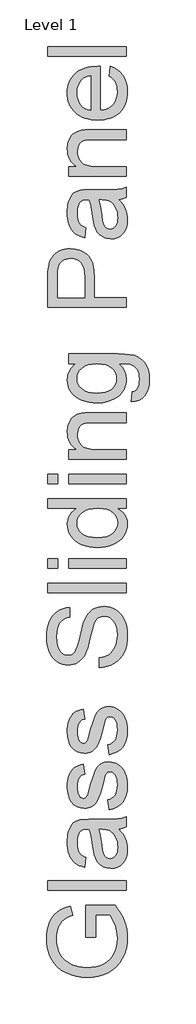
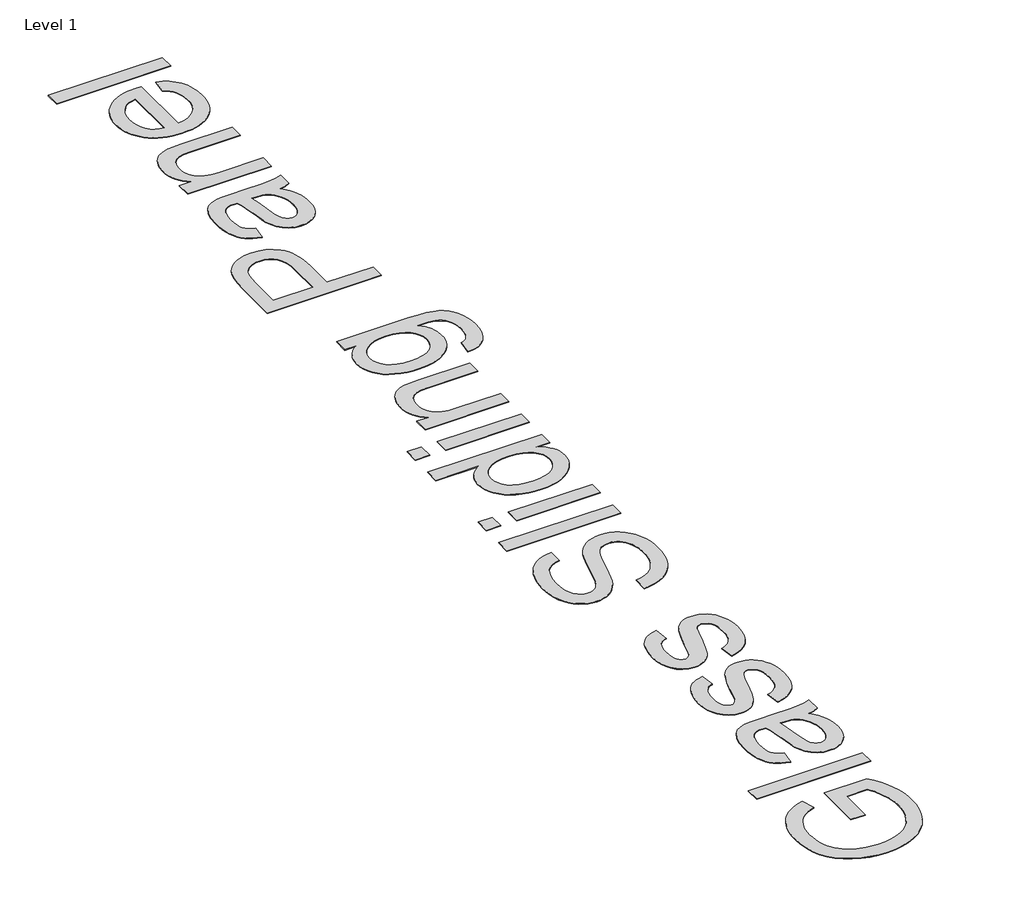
# One storey, part 6 of 47: 1 proxy.
"""IFC4 building model written with IfcOpenShell, lengths in millimetres."""

from ifc_helpers import new_model, si_unit, origin, origin_with_axes, place, context, project, spatial, polyline, outline, extrude, element, save

model = new_model("IFC4")

# Units and contexts
model_context = context("Model", 3, world=origin())
ifc_project = project(units=[si_unit("LENGTHUNIT", "METRE", prefix="MILLI")], contexts=[model_context])

# Site, building, storey
site = spatial("IfcSite", under=ifc_project)
building = spatial("IfcBuilding", under=site)
storey = spatial("IfcBuildingStorey", under=building, Name="Level 1", Elevation=0.0)

# Proxy
placement = place(None, origin())
element("IfcBuildingElementProxy", 1, Name="1000mm Arial", ObjectType="1000mm Arial", at=placement, inside=storey, context=model_context, shape_type="SweptSolid", body=[
    extrude(outline(polyline([(170520.2217511, -49141.2135673), (170394.6513634, -49141.2135673), (170394.6513634, -48733.1098073), (170770.1362532, -48733.1098073), (170807.0624084, -48782.3063599), (170839.1141273, -48832.2846618), (170866.2914097, -48883.044713), (170888.5942556, -48934.5865133), (170905.9766799, -48986.8487493), (170918.3926972, -49039.7701071), (170925.8423076, -49093.3505869), (170928.3255111, -49147.5901885), (170924.3784439, -49219.7180522), (170912.5372421, -49288.4583358), (170892.8019059, -49353.8110394), (170865.1724353, -49415.776163), (170830.0626974, -49472.3533482), (170787.8865594, -49521.5422366), (170738.6440216, -49563.3428283), (170682.3350837, -49597.7551233), (170620.7608347, -49624.6335016), (170555.7223637, -49643.8323432), (170487.2196705, -49655.3516482), (170415.2527552, -49659.1914165), (170343.2781757, -49655.3669766), (170273.7714712, -49643.8936569), (170206.7326418, -49624.7714573), (170142.1616874, -49598.000378), (170082.8943651, -49564.0555997), (170031.766432, -49523.4123034), (169988.777888, -49476.0704892), (169953.9287332, -49422.0301569), (169926.9967055, -49362.4639305), (169907.7595428, -49298.5444339), (169896.2172452, -49230.2716669), (169892.3698127, -49157.6456297), (169894.6000973, -49104.6246372), (169901.2909511, -49054.2094754), (169912.442374, -49006.4001445), (169928.0543662, -48961.1966443), (169947.6440825, -48919.6642999), (169970.7286777, -48882.8684362), (169997.3081518, -48850.8090531), (170027.3825049, -48823.4861508), (170061.6338515, -48800.0260094), (170100.7443061, -48779.5549092), (170144.7138688, -48762.0728502), (170193.5425394, -48747.5798324), (170226.1614096, -48863.3400336), (170159.9733073, -48889.1837437), (170132.9723017, -48904.1979277), (170110.0333265, -48920.6069975), (170090.1676988, -48939.5529203), (170072.3867357, -48962.177663), (170056.6904372, -48988.4812256), (170043.0788034, -49018.4636082), (170032.0806646, -49051.1514563), (170024.2248511, -49085.5714155), (170019.5113631, -49121.7234857), (170017.9402004, -49159.607667), (170019.6339904, -49204.5122631), (170024.7153605, -49246.2745337), (170033.1843105, -49284.894479), (170045.0408407, -49320.3720989), (170059.6488216, -49352.6384156), (170076.3721239, -49381.6244511), (170095.2107478, -49407.3302055), (170116.1646931, -49429.7556788), (170162.3645403, -49466.6971625), (170212.9176578, -49494.3802826), (170259.3627597, -49511.5481091), (170307.7085852, -49523.8108423), (170357.9551344, -49531.1684822), (170410.1024072, -49533.6210288), (170472.8032948, -49530.6703086), (170530.1852218, -49521.8181481), (170582.2481884, -49507.0645473), (170628.9921944, -49486.4095061), (170670.2409631, -49460.1212718), (170705.8182177, -49428.4680918), (170735.7239582, -49391.4499661), (170759.9581846, -49349.0668946), (170778.6818454, -49303.3039072), (170792.0558887, -49256.1460339), (170800.0803147, -49207.5932748), (170802.7551234, -49157.6456297), (170800.7394367, -49113.8906649), (170794.6923764, -49070.6721947), (170784.6139425, -49027.9902191), (170770.5041352, -48985.844738), (170737.1801578, -48912.1763684), (170719.7134272, -48882.9067572), (170701.7102021, -48858.680195), (170520.2217511, -48858.680195), (170520.2217511, -49141.2135673)])), origin_with_axes(), (0.0, 0.0, 1.0), 5.0),
    extrude(outline(polyline([(170912.6292126, -48544.7542258), (169908.0661111, -48544.7542258), (169908.0661111, -48419.1838381), (170912.6292126, -48419.1838381), (170912.6292126, -48544.7542258)])), origin_with_axes(), (0.0, 0.0, 1.0), 5.0),
    extrude(outline(polyline([(170818.4514219, -47759.9393027), (170846.3951251, -47789.7147517), (170869.8935875, -47819.9347248), (170888.9468092, -47850.5992219), (170903.5547901, -47881.7082431), (170914.3919805, -47913.614342), (170922.1328309, -47946.6700721), (170926.777341, -47980.8754335), (170928.3255111, -48016.230426), (170924.6007059, -48072.1408251), (170913.4262903, -48121.1687652), (170894.8022643, -48163.3142462), (170868.7286279, -48198.5772683), (170836.8608501, -48226.4213368), (170800.8543998, -48246.3099572), (170760.7092771, -48258.2431294), (170716.4254819, -48262.2208535), (170664.3701796, -48256.2121142), (170640.1359531, -48248.7011901), (170617.0973432, -48238.1858965), (170576.6303237, -48210.380149), (170544.9924721, -48175.0328206), (170521.0801424, -48133.492812), (170503.7896887, -48087.1090238), (170494.1634431, -48041.920852), (170484.9050796, -47978.4612079), (170465.0394518, -47850.0703915), (170453.819051, -47800.4982927), (170441.7402588, -47760.6750667), (170413.7812272, -47759.9393027), (170383.3389921, -47762.1006094), (170357.7405366, -47768.5845296), (170336.9858607, -47779.3910632), (170321.0749644, -47794.5202103), (170305.1947249, -47820.6704888), (170293.8516968, -47852.5229382), (170287.0458798, -47890.0775585), (170284.7772742, -47933.3343498), (170286.2871232, -47973.5561146), (170290.8166703, -48008.1370221), (170298.3659154, -48037.0770724), (170308.9348586, -48060.3762654), (170323.3512342, -48079.5214576), (170342.442777, -48095.9995053), (170366.2094867, -48109.8104086), (170394.6513634, -48120.9541673), (170378.955065, -48246.524555), (170342.7800021, -48236.9672873), (170310.2837592, -48224.7275468), (170281.4663363, -48209.8053334), (170256.3277332, -48192.2006471), (170234.3621125, -48171.1547312), (170215.0636361, -48145.9088293), (170198.4323043, -48116.4629413), (170184.4681169, -48082.8170672), (170173.4163286, -48045.6533214), (170165.5221941, -48005.6538187), (170160.7857134, -47962.8185589), (170159.2068865, -47917.147542), (170164.7864301, -47832.2587716), (170171.7608596, -47796.4132697), (170181.5250609, -47764.9670233), (170206.6943207, -47714.2299648), (170221.4172647, -47694.6785696), (170237.5657515, -47679.0052638), (170275.7335085, -47655.6447571), (170322.791747, -47640.5002816), (170366.2018225, -47635.9017567), (170432.6658363, -47634.368915), (170588.8930569, -47634.368915), (170724.9787383, -47632.7747597), (170807.04708, -47627.9922938), (170860.9724492, -47618.5499892), (170912.6292126, -47602.9763181), (170912.6292126, -47728.5467058), (170868.9738825, -47748.6575882), (170818.4514219, -47759.9393027)]), holes=[polyline([(170567.3106465, -47759.9393027), (170588.2186066, -47844.3069069), (170605.8156287, -47962.5196547), (170615.4418742, -48027.6654247), (170626.1717657, -48070.554334), (170640.0899679, -48098.6666498), (170659.2811453, -48119.4826393), (170682.27377, -48132.3585092), (170707.596314, -48136.6504658), (170727.1093882, -48134.3128823), (170744.9363365, -48127.3001317), (170761.077159, -48115.6122142), (170775.5318558, -48099.2491296), (170787.4420354, -48078.3641622), (170795.9493065, -48053.110596), (170801.0536692, -48023.4884312), (170802.7551234, -47989.4976677), (170800.8773924, -47954.7941328), (170795.2441993, -47922.0526353), (170785.8555443, -47891.273175), (170772.7114271, -47862.455752), (170756.9001656, -47836.4587577), (170739.5100771, -47814.1405833), (170720.5411617, -47795.5012289), (170699.9934194, -47780.5406945), (170681.5993197, -47771.8494823), (170659.2811453, -47765.6414736), (170602.8725727, -47760.6750667), (170567.3106465, -47759.9393027)])]), origin_with_axes(), (0.0, 0.0, 1.0), 5.0),
    extrude(outline(polyline([(170692.8810342, -47508.7985273), (170677.1847357, -47383.2281397), (170705.8182177, -47375.6405735), (170730.895507, -47363.4238256), (170752.4166037, -47346.5778959), (170770.3815078, -47325.1027844), (170784.5449647, -47298.9371775), (170794.6617195, -47268.0197615), (170800.7317724, -47232.3505364), (170802.7551234, -47191.9295022), (170800.900385, -47151.5544532), (170795.3361698, -47116.7589478), (170786.0624779, -47087.542986), (170773.0793091, -47063.9065678), (170757.5976085, -47045.6657523), (170740.8283209, -47032.6365983), (170722.7714463, -47024.8191059), (170703.4269847, -47022.2132751), (170686.4737561, -47024.8344343), (170671.4212511, -47032.6979119), (170658.2694698, -47045.803708), (170647.0184121, -47064.1518225), (170631.076859, -47111.1794042), (170611.2112313, -47193.4010301), (170578.0711949, -47307.9962716), (170549.7749381, -47382.4923757), (170535.5884886, -47408.0678385), (170518.9035073, -47430.3476919), (170499.7199941, -47449.3319357), (170478.037949, -47465.0205699), (170454.5088297, -47477.3062957), (170429.784094, -47486.0818141), (170403.8637417, -47491.3471252), (170376.747773, -47493.1022289), (170328.0953791, -47487.4613716), (170283.1831189, -47470.5387998), (170243.7890886, -47443.8673552), (170211.6913845, -47408.9798793), (170191.4885316, -47374.3070013), (170174.535303, -47329.1494864), (170163.0389906, -47276.9408999), (170159.2068865, -47221.1148071), (170160.7473924, -47178.9156766), (170165.3689099, -47139.3836905), (170173.0714392, -47102.5188489), (170183.8549802, -47068.3211518), (170197.2673446, -47037.6030052), (170212.8563442, -47011.1768152), (170230.6219788, -46989.0425818), (170250.5642487, -46971.2003051), (170273.3805966, -46956.7302799), (170299.7684655, -46944.7128014), (170329.7278555, -46935.1478695), (170363.2587665, -46928.0354843), (170378.955065, -47053.605872), (170357.978127, -47059.5916186), (170339.4384073, -47069.4554546), (170323.3359058, -47083.19738), (170309.6706225, -47100.8173947), (170298.7797827, -47122.3921409), (170291.0006113, -47147.9982606), (170286.3331085, -47177.6357538), (170284.7772742, -47211.3046206), (170286.2641306, -47250.3614257), (170290.7246998, -47283.4094916), (170298.1589818, -47310.4488183), (170308.5669766, -47331.4794057), (170320.9523371, -47347.2523462), (170334.3187162, -47358.5187323), (170348.666114, -47365.278564), (170363.9945305, -47367.5318412), (170383.3083353, -47363.7917076), (170400.5374754, -47352.5713067), (170415.9272055, -47333.3801293), (170428.2512523, -47305.727666), (170454.9840106, -47197.5703594), (170487.7868219, -47086.623281), (170514.0903845, -47013.2614798), (170526.9202691, -46987.4484265), (170542.3559845, -46964.5784291), (170560.3975307, -46944.6514877), (170581.0449077, -46927.6676023), (170604.3287723, -46914.0942895), (170630.2797813, -46904.3990661), (170658.8979349, -46898.5819321), (170690.1832329, -46896.6428874), (170721.6064866, -46898.9191572), (170752.1100354, -46905.7479668), (170781.6938792, -46917.129316), (170810.358018, -46933.0632049), (170836.9604848, -46953.2890504), (170860.3593125, -46977.5462695), (170880.5545012, -47005.8348621), (170897.5460508, -47038.1548282), (170911.0120647, -47073.6247839), (170920.630646, -47111.3633452), (170926.4017948, -47151.3705122), (170928.3255111, -47193.6462848), (170924.6160343, -47261.229273), (170913.487604, -47320.2590048), (170894.94022, -47370.7354802), (170868.9738825, -47412.6586993), (170835.7112188, -47446.9023817), (170795.2748562, -47474.3402471), (170747.6647946, -47494.9722957), (170692.8810342, -47508.7985273)])), origin_with_axes(), (0.0, 0.0, 1.0), 5.0),
    extrude(outline(polyline([(170692.8810342, -46802.4650966), (170677.1847357, -46676.8947089), (170705.8182177, -46669.3071428), (170730.895507, -46657.0903948), (170752.4166037, -46640.2444652), (170770.3815078, -46618.7693537), (170784.5449647, -46592.6037468), (170794.6617195, -46561.6863308), (170800.7317724, -46526.0171056), (170802.7551234, -46485.5960714), (170800.900385, -46445.2210225), (170795.3361698, -46410.4255171), (170786.0624779, -46381.2095553), (170773.0793091, -46357.5731371), (170757.5976085, -46339.3323215), (170740.8283209, -46326.3031675), (170722.7714463, -46318.4856751), (170703.4269847, -46315.8798443), (170686.4737561, -46318.5010035), (170671.4212511, -46326.3644812), (170658.2694698, -46339.4702773), (170647.0184121, -46357.8183918), (170631.076859, -46404.8459735), (170611.2112313, -46487.0675994), (170578.0711949, -46601.6628409), (170549.7749381, -46676.1589449), (170535.5884886, -46701.7344078), (170518.9035073, -46724.0142611), (170499.7199941, -46742.9985049), (170478.037949, -46758.6871392), (170454.5088297, -46770.972865), (170429.784094, -46779.7483834), (170403.8637417, -46785.0136945), (170376.747773, -46786.7687981), (170328.0953791, -46781.1279409), (170283.1831189, -46764.2053691), (170243.7890886, -46737.5339245), (170211.6913845, -46702.6464486), (170191.4885316, -46667.9735705), (170174.535303, -46622.8160556), (170163.0389906, -46570.6074691), (170159.2068865, -46514.7813764), (170160.7473924, -46472.5822458), (170165.3689099, -46433.0502598), (170173.0714392, -46396.1854182), (170183.8549802, -46361.987721), (170197.2673446, -46331.2695745), (170212.8563442, -46304.8433845), (170230.6219788, -46282.7091511), (170250.5642487, -46264.8668743), (170273.3805966, -46250.3968492), (170299.7684655, -46238.3793707), (170329.7278555, -46228.8144388), (170363.2587665, -46221.7020536), (170378.955065, -46347.2724412), (170357.978127, -46353.2581879), (170339.4384073, -46363.1220239), (170323.3359058, -46376.8639492), (170309.6706225, -46394.483964), (170298.7797827, -46416.0587101), (170291.0006113, -46441.6648298), (170286.3331085, -46471.3023231), (170284.7772742, -46504.9711898), (170286.2641306, -46544.027995), (170290.7246998, -46577.0760609), (170298.1589818, -46604.1153875), (170308.5669766, -46625.1459749), (170320.9523371, -46640.9189155), (170334.3187162, -46652.1853016), (170348.666114, -46658.9451332), (170363.9945305, -46661.1984105), (170383.3083353, -46657.4582768), (170400.5374754, -46646.237876), (170415.9272055, -46627.0466986), (170428.2512523, -46599.3942353), (170454.9840106, -46491.2369287), (170487.7868219, -46380.2898503), (170514.0903845, -46306.9280491), (170526.9202691, -46281.1149958), (170542.3559845, -46258.2449984), (170560.3975307, -46238.318057), (170581.0449077, -46221.3341716), (170604.3287723, -46207.7608588), (170630.2797813, -46198.0656354), (170658.8979349, -46192.2485013), (170690.1832329, -46190.3094566), (170721.6064866, -46192.5857265), (170752.1100354, -46199.414536), (170781.6938792, -46210.7958852), (170810.358018, -46226.7297742), (170836.9604848, -46246.9556197), (170860.3593125, -46271.2128387), (170880.5545012, -46299.5014313), (170897.5460508, -46331.8213974), (170911.0120647, -46367.2913531), (170920.630646, -46405.0299145), (170926.4017948, -46445.0370815), (170928.3255111, -46487.3128541), (170924.6160343, -46554.8958423), (170913.487604, -46613.9255741), (170894.94022, -46664.4020495), (170868.9738825, -46706.3252685), (170835.7112188, -46740.5689509), (170795.2748562, -46768.0068164), (170747.6647946, -46788.638865), (170692.8810342, -46802.4650966)])), origin_with_axes(), (0.0, 0.0, 1.0), 5.0),
    extrude(outline(polyline([(170567.3106465, -45688.0279059), (170567.3106465, -45562.4575182), (170603.8612556, -45556.709362), (170636.9936278, -45548.0488067), (170666.7077631, -45536.4758523), (170693.0036615, -45521.9904987), (170716.4101535, -45503.8569821), (170737.4560693, -45481.3395383), (170756.1414089, -45454.4381674), (170772.4661725, -45423.1528694), (170785.7175885, -45388.6332755), (170795.1828857, -45352.029017), (170800.862064, -45313.3400938), (170802.7551234, -45272.566506), (170797.0222957, -45202.6076133), (170789.856261, -45170.8931196), (170779.8238124, -45141.3552611), (170767.2851677, -45114.7221374), (170752.6005447, -45091.7218485), (170735.7699435, -45072.3543943), (170716.7933639, -45056.6197748), (170696.4908763, -45044.4413479), (170675.6825509, -45035.7424716), (170654.3683878, -45030.5231458), (170632.548387, -45028.7833705), (170590.517869, -45033.9950321), (170554.189522, -45049.6300169), (170538.0716921, -45062.7817983), (170523.1954639, -45081.3904958), (170509.5608375, -45105.4561097), (170497.1678128, -45134.9786398), (170477.4554692, -45201.2893694), (170449.2205261, -45317.8159914), (170417.490704, -45437.8374923), (170402.2006085, -45481.6384424), (170387.2937235, -45514.6328588), (170367.29014, -45548.1637698), (170345.0486078, -45577.1421412), (170320.5691267, -45601.5679728), (170293.8516968, -45621.4412648), (170265.1722295, -45636.8386591), (170234.8066365, -45647.8367979), (170202.7549177, -45654.4356812), (170169.0170731, -45656.635309), (170131.6234011, -45653.914515), (170095.4713309, -45645.7521333), (170060.5608624, -45632.1481637), (170026.8919956, -45613.1026062), (169995.8366238, -45588.8300587), (169968.7666404, -45559.5451191), (169945.6820452, -45525.2477872), (169926.5828382, -45485.9380632), (169911.6146396, -45442.941855), (169900.9230691, -45397.5850707), (169894.5081268, -45349.8677102), (169892.3698127, -45299.7897736), (169894.6077615, -45245.1592974), (169901.3216079, -45193.839759), (169912.5113519, -45145.8311587), (169928.1769936, -45101.1334962), (169948.180577, -45060.5745063), (169972.3841466, -45024.9819232), (170000.7877023, -44994.3557471), (170033.3912442, -44968.695978), (170069.2444103, -44948.2018852), (170107.3968389, -44933.0727381), (170147.8485299, -44923.3085368), (170190.5994834, -44918.9092813), (170190.5994834, -45044.479669), (170150.5310028, -45052.8796412), (170115.6741838, -45067.5336074), (170086.0290263, -45088.4415674), (170061.5955305, -45115.6035214), (170042.4963236, -45149.525307), (170028.8540329, -45190.7127621), (170020.6686585, -45239.1658865), (170017.9402004, -45294.8846804), (170020.6380017, -45352.3815705), (170028.7314056, -45401.5091453), (170042.2204121, -45442.2674047), (170061.1050211, -45474.6563487), (170083.8064059, -45499.3350992), (170108.7457395, -45516.9627781), (170135.9230219, -45527.5393855), (170165.3382531, -45531.0649213), (170190.6454687, -45528.5663894), (170213.5921081, -45521.0707937), (170234.1781715, -45508.5781343), (170252.4036586, -45491.0884111), (170269.6634556, -45463.5585752), (170287.1071935, -45420.2098134), (170304.7348724, -45361.0421258), (170322.5464924, -45286.0555125), (170356.2076949, -45147.609255), (170371.4288125, -45098.8955474), (170385.5769409, -45063.8547874), (170407.0213955, -45025.3574694), (170431.1329946, -44992.2710825), (170457.9117382, -44964.5956266), (170487.3576262, -44942.3311017), (170519.3173746, -44925.2169247), (170553.637699, -44912.9925125), (170590.3185996, -44905.6578653), (170629.3600764, -44903.2129828), (170668.6391436, -44906.0257473), (170706.7685795, -44914.4640405), (170743.7483842, -44928.5278626), (170779.5785577, -44948.2172136), (170812.8718783, -44973.187204), (170842.2411242, -45003.0929445), (170867.6862956, -45037.9344352), (170889.2073923, -45077.7116759), (170906.3215693, -45121.2673713), (170918.5459814, -45167.4442259), (170925.8806287, -45216.2422397), (170928.3255111, -45267.6614127), (170925.6890235, -45331.8951419), (170917.7795606, -45390.6872833), (170904.5971224, -45444.0378368), (170886.141709, -45491.9468025), (170862.3826635, -45534.7054202), (170833.289329, -45572.6049299), (170798.8617056, -45605.6453316), (170759.0997933, -45633.8266253), (170715.2911791, -45656.52801), (170668.7234498, -45673.1286851), (170619.3966057, -45683.6286504), (170567.3106465, -45688.0279059)])), origin_with_axes(), (0.0, 0.0, 1.0), 5.0),
    extrude(outline(polyline([(170912.6292126, -44730.5536998), (169908.0661111, -44730.5536998), (169908.0661111, -44604.9833121), (170912.6292126, -44604.9833121), (170912.6292126, -44730.5536998)])), origin_with_axes(), (0.0, 0.0, 1.0), 5.0),
    extrude(outline(polyline([(170033.6364988, -44416.6277306), (169908.0661111, -44416.6277306), (169908.0661111, -44291.0573429), (170033.6364988, -44291.0573429), (170033.6364988, -44416.6277306)])), origin_with_axes(), (0.0, 0.0, 1.0), 5.0),
    extrude(outline(polyline([(170912.6292126, -44416.6277306), (170174.903185, -44416.6277306), (170174.903185, -44291.0573429), (170912.6292126, -44291.0573429), (170912.6292126, -44416.6277306)])), origin_with_axes(), (0.0, 0.0, 1.0), 5.0),
    extrude(outline(polyline([(170912.6292126, -43647.509106), (170794.1712102, -43647.509106), (170825.6136245, -43665.3015654), (170852.8637168, -43685.0790547), (170875.9214873, -43706.841574), (170894.7869359, -43730.5891232), (170909.4600625, -43756.3217024), (170919.9408673, -43784.0393114), (170926.2293502, -43813.7419504), (170928.3255111, -43845.4296194), (170925.2904846, -43886.8776575), (170916.1854053, -43926.608913), (170901.010273, -43964.6233858), (170879.7650877, -44000.921076), (170853.0859789, -44034.3676807), (170821.6090757, -44063.8288972), (170785.3343781, -44089.3047253), (170744.2618862, -44110.7951652), (170699.1733492, -44127.8556928), (170650.8505162, -44140.0417838), (170599.2933875, -44147.3534385), (170544.5019628, -44149.7906567), (170490.7145494, -44147.5450437), (170439.4716532, -44140.8082047), (170390.7732741, -44129.5801396), (170344.6194121, -44113.8608485), (170302.3589679, -44093.6579956), (170265.3408421, -44068.9792451), (170233.5650348, -44039.824597), (170207.0315459, -44006.1940513), (170186.1082574, -43969.2755602), (170171.1630514, -43930.2570761), (170162.1959277, -43889.1385989), (170159.2068865, -43845.9201287), (170161.3452006, -43814.312934), (170167.7601429, -43784.4838355), (170178.4517134, -43756.4328334), (170193.4199121, -43730.1599276), (170211.8063476, -43705.956358), (170232.7526287, -43684.1133645), (170256.2587554, -43664.6309472), (170282.3247276, -43647.509106), (169908.0661111, -43647.509106), (169908.0661111, -43521.9387183), (170912.6292126, -43521.9387183), (170912.6292126, -43647.509106)]), holes=[polyline([(170544.0114535, -44024.220269), (170604.9035879, -44020.6794048), (170657.5950195, -44010.0568122), (170702.0857483, -43992.3524912), (170738.3757743, -43967.5664418), (170766.5417395, -43937.9672696), (170786.6602861, -43905.8235803), (170798.7314141, -43871.1353738), (170802.7551234, -43833.9026502), (170798.9153551, -43796.4936498), (170787.3960501, -43762.012377), (170768.1972085, -43730.4588317), (170741.3188302, -43701.8330139), (170706.5463175, -43678.0663042), (170663.6650724, -43661.090083), (170612.675095, -43650.9043502), (170553.5763854, -43647.509106), (170488.783169, -43650.9656639), (170433.2176593, -43661.3353376), (170386.8798563, -43678.6181272), (170349.76976, -43702.8140326), (170321.3355475, -43732.0683154), (170301.0253957, -43764.5262373), (170288.8393046, -43800.1877982), (170284.7772742, -43839.0529981), (170288.6783562, -43877.0214857), (170300.3816022, -43911.7096922), (170319.8870121, -43943.1176175), (170347.1945861, -43971.2452617), (170382.9021322, -43994.4218274), (170427.6074588, -44010.9765172), (170481.3105659, -44020.9093311), (170544.0114535, -44024.220269)])]), origin_with_axes(), (0.0, 0.0, 1.0), 5.0),
    extrude(outline(polyline([(170033.6364988, -43333.5831368), (169908.0661111, -43333.5831368), (169908.0661111, -43208.0127491), (170033.6364988, -43208.0127491), (170033.6364988, -43333.5831368)])), origin_with_axes(), (0.0, 0.0, 1.0), 5.0),
    extrude(outline(polyline([(170912.6292126, -43333.5831368), (170174.903185, -43333.5831368), (170174.903185, -43208.0127491), (170912.6292126, -43208.0127491), (170912.6292126, -43333.5831368)])), origin_with_axes(), (0.0, 0.0, 1.0), 5.0),
    extrude(outline(polyline([(170912.6292126, -43019.6571675), (170174.903185, -43019.6571675), (170174.903185, -42894.0867799), (170277.9101436, -42894.0867799), (170250.0890677, -42873.370425), (170225.9774686, -42850.4621066), (170205.5753463, -42825.3618246), (170188.8827008, -42798.0695791), (170175.8995321, -42768.58537), (170166.6258401, -42736.9091974), (170161.0616249, -42703.0410612), (170159.2068865, -42666.9809615), (170165.1849689, -42605.0848158), (170172.657572, -42576.0911161), (170183.1192162, -42548.4003317), (170196.0104145, -42523.0624593), (170210.7716795, -42501.1274953), (170227.4030114, -42482.5954398), (170245.9044101, -42467.4662928), (170288.4254373, -42444.6269522), (170338.2427908, -42429.8197019), (170385.8835092, -42424.853295), (170459.6438492, -42423.197826), (170912.6292126, -42423.197826), (170912.6292126, -42548.7682137), (170476.566421, -42548.7682137), (170411.6352489, -42552.38572), (170365.4660585, -42563.2382389), (170347.9993279, -42571.8604731), (170332.3873358, -42583.2571508), (170318.630082, -42597.4282718), (170306.7275666, -42614.3738362), (170290.2648473, -42654.2583758), (170284.7772742, -42700.5808504), (170287.8582859, -42738.7102863), (170297.101321, -42774.1265926), (170312.5063796, -42806.8297691), (170334.0734616, -42836.8198159), (170364.2551136, -42861.8741126), (170405.5038823, -42879.7700389), (170457.8197677, -42890.5075946), (170521.2027698, -42894.0867799), (170912.6292126, -42894.0867799), (170912.6292126, -43019.6571675)])), origin_with_axes(), (0.0, 0.0, 1.0), 5.0),
    extrude(outline(polyline([(170975.4144065, -42281.9311399), (170991.1107049, -42156.3607522), (171012.2639197, -42151.0571201), (171030.3514511, -42142.5038637), (171045.3732992, -42130.700983), (171057.3294641, -42115.6484781), (171069.5615404, -42091.2916243), (171078.2987378, -42062.8574117), (171083.5410562, -42030.3458404), (171085.2884957, -41993.7569103), (171083.31113, -41954.546821), (171077.3790328, -41920.057884), (171067.4922042, -41890.2900992), (171053.6506441, -41865.2434667), (171036.237563, -41844.3968203), (171015.6361713, -41827.2289938), (170991.8464689, -41813.7399873), (170964.868456, -41803.9298008), (170910.8511163, -41797.1239839), (170818.4514219, -41795.3458876), (170859.6542053, -41837.1311509), (170889.084765, -41883.7601938), (170899.3854608, -41908.8911326), (170906.7431007, -41935.2330163), (170912.6292126, -41991.5496183), (170910.9162621, -42027.0023296), (170905.7774105, -42060.3972009), (170897.2126578, -42091.7342323), (170885.222004, -42121.0134238), (170869.8054491, -42148.2347754), (170850.9629932, -42173.3982871), (170828.6946362, -42196.5039589), (170803.0003781, -42217.5517907), (170745.4575027, -42252.5848866), (170682.457711, -42277.6085264), (170614.0010031, -42292.6227104), (170540.0873789, -42297.6274383), (170488.3769659, -42295.3818253), (170438.7052324, -42288.6449863), (170391.0721782, -42277.4169212), (170345.4778034, -42261.6976301), (170303.4396213, -42241.7247035), (170266.4751449, -42217.7357317), (170234.5843745, -42189.7307148), (170207.7673099, -42157.7096528), (170186.5221247, -42122.1860477), (170171.3469924, -42083.6734013), (170162.241913, -42042.1717137), (170159.2068865, -41997.6809849), (170160.9236692, -41967.6411208), (170166.0740171, -41938.9578215), (170174.6579303, -41911.631087), (170186.6754088, -41885.6609174), (170202.1264526, -41861.0473127), (170221.0110617, -41837.7902728), (170243.3292361, -41815.8897978), (170269.0809757, -41795.3458876), (170174.903185, -41795.3458876), (170174.903185, -41669.7754999), (170811.829546, -41669.7754999), (170891.6369463, -41671.9214782), (170958.8903735, -41678.3594131), (171013.5898277, -41689.0893046), (171055.7353088, -41704.1111528), (171089.7260723, -41723.7851753), (171119.9613738, -41748.47159), (171146.4412132, -41778.1703969), (171169.1655906, -41812.881596), (171187.4064062, -41852.2526337), (171200.4355602, -41895.9309564), (171208.2530526, -41943.9165642), (171210.8588834, -41996.209457), (171207.1877277, -42057.7300564), (171196.1742604, -42113.0426473), (171177.8184817, -42162.1472294), (171152.1203915, -42205.0438029), (171119.049333, -42239.6936883), (171078.5746493, -42264.0582063), (171030.6963405, -42278.1373568), (170975.4144065, -42281.9311399)]), holes=[polyline([(170531.5034656, -42172.0570506), (170593.5912165, -42168.7077917), (170646.681187, -42158.6600147), (170690.7733769, -42141.9137197), (170725.8677864, -42118.4689067), (170752.6388658, -42089.9657163), (170771.7610653, -42058.044289), (170783.234385, -42022.7046248), (170787.058825, -41983.9467238), (170783.2573777, -41945.5720332), (170771.8530358, -41910.4009816), (170752.8457994, -41878.433569), (170726.2356684, -41849.6697955), (170691.4861483, -41825.9030858), (170648.0607444, -41808.9268646), (170595.9594569, -41798.7411318), (170535.1822856, -41795.3458876), (170476.9419672, -41798.8407665), (170426.3198719, -41809.3254034), (170383.3159995, -41826.7997982), (170347.93035, -41851.2639509), (170320.3008794, -41880.6485252), (170300.5655432, -41912.884185), (170288.7243414, -41947.9709303), (170284.7772742, -41985.9087611), (170288.6630278, -42023.2104626), (170300.3202885, -42057.6150933), (170319.7490564, -42089.1226534), (170346.9493314, -42117.7331427), (170381.7984862, -42141.4998524), (170424.1738935, -42158.4760737), (170474.0755534, -42168.6618064), (170531.5034656, -42172.0570506)])]), origin_with_axes(), (0.0, 0.0, 1.0), 5.0),
    extrude(outline(polyline([(170912.6292126, -41073.3161584), (169908.0661111, -41073.3161584), (169908.0661111, -40701.0195793), (169910.4573441, -40614.3220557), (169917.631043, -40550.9237252), (169925.1649597, -40515.9825999), (169935.5039766, -40483.9998589), (169948.6480937, -40454.9755024), (169964.5973111, -40428.9095302), (169983.6811896, -40405.5260309), (170006.2292902, -40384.5490929), (170032.2416129, -40365.9787164), (170061.7181578, -40349.8149012), (170093.6855703, -40336.7244335), (170127.1704961, -40327.3740995), (170162.1729351, -40321.7638991), (170198.6928873, -40319.8938323), (170260.3591068, -40324.9445455), (170317.0895761, -40340.0966852), (170368.8842954, -40365.3502513), (170415.7432645, -40400.7052439), (170436.5515898, -40422.941028), (170454.5854718, -40449.2426746), (170469.8449104, -40479.6101837), (170482.3299056, -40514.0435552), (170492.0404575, -40552.5427892), (170498.9765659, -40595.1078857), (170504.5254527, -40692.435666), (170504.5254527, -40947.7457707), (170912.6292126, -40947.7457707), (170912.6292126, -41073.3161584)]), holes=[polyline([(170378.955065, -40947.7457707), (170378.955065, -40685.0780261), (170376.0733227, -40624.6840653), (170367.4280958, -40573.7324089), (170353.0193843, -40532.2230571), (170332.8471882, -40500.1560099), (170307.4480022, -40476.2283518), (170277.3583206, -40459.1371674), (170242.5781437, -40448.8824568), (170203.1074713, -40445.46422), (170173.799539, -40447.4799067), (170146.6988987, -40453.526967), (170121.8055503, -40463.6054008), (170099.119494, -40477.7152082), (170079.3764936, -40495.1052967), (170063.3123131, -40515.0245739), (170050.9269526, -40537.4730398), (170042.2204121, -40562.4506944), (170035.7824771, -40610.8884905), (170033.6364988, -40688.0210821), (170033.6364988, -40947.7457707), (170378.955065, -40947.7457707)])]), origin_with_axes(), (0.0, 0.0, 1.0), 5.0),
    extrude(outline(polyline([(170818.4514219, -39692.0418938), (170846.3951251, -39721.8173428), (170869.8935875, -39752.0373159), (170888.9468092, -39782.701813), (170903.5547901, -39813.8108342), (170914.3919805, -39845.7169331), (170922.1328309, -39878.7726632), (170926.777341, -39912.9780246), (170928.3255111, -39948.3330171), (170924.6007059, -40004.2434162), (170913.4262903, -40053.2713563), (170894.8022643, -40095.4168373), (170868.7286279, -40130.6798594), (170836.8608501, -40158.5239279), (170800.8543998, -40178.4125483), (170760.7092771, -40190.3457205), (170716.4254819, -40194.3234446), (170664.3701796, -40188.3147053), (170640.1359531, -40180.8037813), (170617.0973432, -40170.2884876), (170576.6303237, -40142.4827401), (170544.9924721, -40107.1354117), (170521.0801424, -40065.5954031), (170503.7896887, -40019.2116149), (170494.1634431, -39974.0234431), (170484.9050796, -39910.563799), (170465.0394518, -39782.1729826), (170453.819051, -39732.6008838), (170441.7402588, -39692.7776578), (170413.7812272, -39692.0418938), (170383.3389921, -39694.2032006), (170357.7405366, -39700.6871207), (170336.9858607, -39711.4936543), (170321.0749644, -39726.6228014), (170305.1947249, -39752.7730799), (170293.8516968, -39784.6255293), (170287.0458798, -39822.1801496), (170284.7772742, -39865.4369409), (170286.2871232, -39905.6587057), (170290.8166703, -39940.2396132), (170298.3659154, -39969.1796635), (170308.9348586, -39992.4788566), (170323.3512342, -40011.6240487), (170342.442777, -40028.1020964), (170366.2094867, -40041.9129997), (170394.6513634, -40053.0567584), (170378.955065, -40178.6271461), (170342.7800021, -40169.0698785), (170310.2837592, -40156.8301379), (170281.4663363, -40141.9079245), (170256.3277332, -40124.3032382), (170234.3621125, -40103.2573224), (170215.0636361, -40078.0114204), (170198.4323043, -40048.5655324), (170184.4681169, -40014.9196583), (170173.4163286, -39977.7559125), (170165.5221941, -39937.7564098), (170160.7857134, -39894.92115), (170159.2068865, -39849.2501331), (170164.7864301, -39764.3613627), (170171.7608596, -39728.5158608), (170181.5250609, -39697.0696144), (170206.6943207, -39646.3325559), (170221.4172647, -39626.7811607), (170237.5657515, -39611.1078549), (170275.7335085, -39587.7473482), (170322.791747, -39572.6028727), (170366.2018225, -39568.0043478), (170432.6658363, -39566.4715061), (170588.8930569, -39566.4715061), (170724.9787383, -39564.8773508), (170807.04708, -39560.0948849), (170860.9724492, -39550.6525804), (170912.6292126, -39535.0789092), (170912.6292126, -39660.6492969), (170868.9738825, -39680.7601793), (170818.4514219, -39692.0418938)]), holes=[polyline([(170567.3106465, -39692.0418938), (170588.2186066, -39776.4094981), (170605.8156287, -39894.6222458), (170615.4418742, -39959.7680158), (170626.1717657, -40002.6569251), (170640.0899679, -40030.7692409), (170659.2811453, -40051.5852305), (170682.27377, -40064.4611003), (170707.596314, -40068.7530569), (170727.1093882, -40066.4154734), (170744.9363365, -40059.4027228), (170761.077159, -40047.7148053), (170775.5318558, -40031.3517207), (170787.4420354, -40010.4667533), (170795.9493065, -39985.2131872), (170801.0536692, -39955.5910223), (170802.7551234, -39921.6002588), (170800.8773924, -39886.8967239), (170795.2441993, -39854.1552264), (170785.8555443, -39823.3757661), (170772.7114271, -39794.5583432), (170756.9001656, -39768.5613488), (170739.5100771, -39746.2431745), (170720.5411617, -39727.60382), (170699.9934194, -39712.6432856), (170681.5993197, -39703.9520734), (170659.2811453, -39697.7440648), (170602.8725727, -39692.7776578), (170567.3106465, -39692.0418938)])]), origin_with_axes(), (0.0, 0.0, 1.0), 5.0),
    extrude(outline(polyline([(170912.6292126, -39393.8122231), (170174.903185, -39393.8122231), (170174.903185, -39268.2418354), (170277.9101436, -39268.2418354), (170250.0890677, -39247.5254805), (170225.9774686, -39224.6171621), (170205.5753463, -39199.5168802), (170188.8827008, -39172.2246346), (170175.8995321, -39142.7404256), (170166.6258401, -39111.0642529), (170161.0616249, -39077.1961168), (170159.2068865, -39041.136017), (170165.1849689, -38979.2398713), (170172.657572, -38950.2461716), (170183.1192162, -38922.5553873), (170196.0104145, -38897.2175148), (170210.7716795, -38875.2825509), (170227.4030114, -38856.7504954), (170245.9044101, -38841.6213483), (170288.4254373, -38818.7820078), (170338.2427908, -38803.9747575), (170385.8835092, -38799.0083505), (170459.6438492, -38797.3528816), (170912.6292126, -38797.3528816), (170912.6292126, -38922.9232692), (170476.566421, -38922.9232692), (170411.6352489, -38926.5407755), (170365.4660585, -38937.3932944), (170347.9993279, -38946.0155287), (170332.3873358, -38957.4122063), (170318.630082, -38971.5833273), (170306.7275666, -38988.5288917), (170290.2648473, -39028.4134314), (170284.7772742, -39074.7359059), (170287.8582859, -39112.8653419), (170297.101321, -39148.2816481), (170312.5063796, -39180.9848247), (170334.0734616, -39210.9748715), (170364.2551136, -39236.0291682), (170405.5038823, -39253.9250944), (170457.8197677, -39264.6626501), (170521.2027698, -39268.2418354), (170912.6292126, -39268.2418354), (170912.6292126, -39393.8122231)])), origin_with_axes(), (0.0, 0.0, 1.0), 5.0),
    extrude(outline(polyline([(170692.8810342, -38108.1872773), (170708.5773327, -37985.0694362), (170757.8888484, -38003.9463811), (170801.3449091, -38029.4298735), (170838.9455147, -38061.5199133), (170870.6906652, -38100.2165007), (170895.9059103, -38145.1210967), (170913.9167996, -38195.8351626), (170924.7233332, -38252.3586983), (170928.3255111, -38314.6917039), (170926.7715929, -38354.7103672), (170922.1098382, -38392.6060448), (170914.3402471, -38428.3787367), (170903.4628196, -38462.028443), (170889.4775556, -38493.5551635), (170872.3844552, -38522.9588984), (170852.1835184, -38550.2396476), (170828.8747451, -38575.3974111), (170802.7608716, -38597.9876649), (170774.1446341, -38617.5658848), (170743.0260326, -38634.1320709), (170709.4050671, -38647.6862232), (170673.2817377, -38658.2283416), (170634.6560442, -38665.7584262), (170593.5279868, -38670.276477), (170549.8975654, -38671.7824939), (170504.7822036, -38670.2611485), (170462.2650085, -38665.6971125), (170422.3459799, -38658.0903859), (170385.0251179, -38647.4409685), (170350.3024225, -38633.7488605), (170318.1778937, -38617.0140618), (170288.6515315, -38597.2365725), (170261.7233358, -38574.4163925), (170237.696043, -38549.1704906), (170216.8723893, -38522.1158355), (170199.2523745, -38493.2524273), (170184.8359989, -38462.580266), (170173.6232622, -38430.0993515), (170165.6141646, -38395.8096838), (170160.808706, -38359.711263), (170159.2068865, -38321.8040891), (170160.8048739, -38285.1366009), (170165.5988362, -38250.1820632), (170173.5887733, -38216.940476), (170184.7746852, -38185.4118394), (170199.1565719, -38155.5961533), (170216.7344335, -38127.4934178), (170237.5082699, -38101.1036328), (170261.4780812, -38076.4267983), (170288.3449631, -38054.0952116), (170317.8100117, -38034.7411698), (170349.8732268, -38018.3646728), (170384.5346086, -38004.9657208), (170421.7941569, -37994.5443136), (170461.6518718, -37987.1004514), (170549.1618014, -37981.1453616), (170583.006945, -37981.8811256), (170583.006945, -38546.2121062), (170633.1155384, -38538.9387726), (170677.0007947, -38524.4764116), (170714.662714, -38502.8250234), (170746.1012962, -38473.9846078), (170770.8873456, -38439.5493202), (170788.5916666, -38401.1133159), (170799.2142592, -38358.6765949), (170802.7551234, -38312.2391573), (170801.1149829, -38277.5049655), (170796.1945612, -38245.4072615), (170787.9938584, -38215.946045), (170776.5128744, -38189.1213162), (170761.445041, -38164.933075), (170742.4837899, -38143.3813215), (170719.6291209, -38124.4660555), (170692.8810342, -38108.1872773)]), holes=[polyline([(170457.4365573, -38546.2121062), (170457.4365573, -38106.7157493), (170421.9052879, -38113.1690126), (170391.0951708, -38123.6996347), (170365.006206, -38138.3076156), (170343.6383934, -38156.9929553), (170317.8866538, -38191.2366377), (170299.492554, -38230.2014723), (170288.4560942, -38273.8874593), (170284.7772742, -38322.2945985), (170287.712666, -38366.4481021), (170296.5188412, -38406.9381142), (170311.1958, -38443.7646347), (170331.7435423, -38476.9276638), (170357.2117062, -38504.7564039), (170386.64993, -38525.5800576), (170420.0582137, -38539.3986251), (170457.4365573, -38546.2121062)])]), origin_with_axes(), (0.0, 0.0, 1.0), 5.0),
    extrude(outline(polyline([(170912.6292126, -37855.5749739), (169908.0661111, -37855.5749739), (169908.0661111, -37730.0045862), (170912.6292126, -37730.0045862), (170912.6292126, -37855.5749739)])), origin_with_axes(), (0.0, 0.0, 1.0), 5.0),
])

save(model, "model.ifc")
